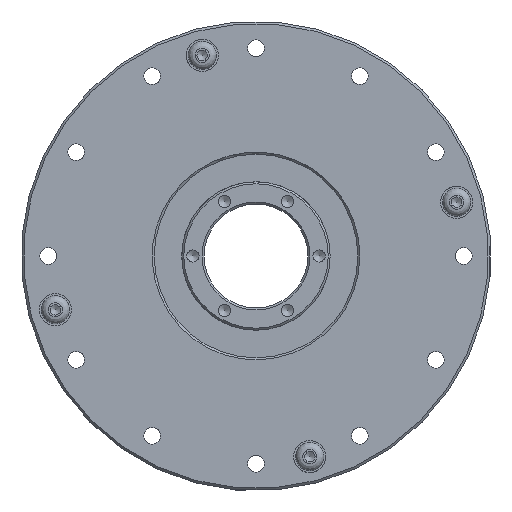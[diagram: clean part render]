
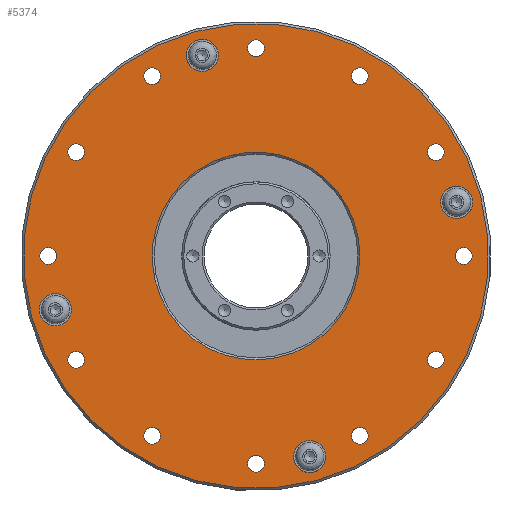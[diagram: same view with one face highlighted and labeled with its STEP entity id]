
A CAD part, left-side view. The second image highlights one B-rep face of the part: STEP entity #5374.
In plain terms, the highlighted planar face has unit normal (-1, 0, 0).
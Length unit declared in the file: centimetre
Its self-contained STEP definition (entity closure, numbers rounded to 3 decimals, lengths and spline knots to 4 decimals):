
#494=PLANE($,#6002);
#710=FACE_BOUND($,#1662,.T.);
#711=FACE_BOUND($,#1663,.T.);
#712=FACE_BOUND($,#1664,.T.);
#713=FACE_BOUND($,#1665,.T.);
#714=FACE_BOUND($,#1666,.T.);
#715=FACE_BOUND($,#1667,.T.);
#716=FACE_BOUND($,#1668,.T.);
#717=FACE_BOUND($,#1669,.T.);
#718=FACE_BOUND($,#1670,.T.);
#719=FACE_BOUND($,#1671,.T.);
#720=FACE_BOUND($,#1672,.T.);
#721=FACE_BOUND($,#1673,.T.);
#722=FACE_BOUND($,#1674,.T.);
#723=FACE_BOUND($,#1675,.T.);
#724=FACE_BOUND($,#1676,.T.);
#725=FACE_BOUND($,#1677,.T.);
#726=FACE_BOUND($,#1678,.T.);
#727=FACE_BOUND($,#1679,.T.);
#1662=EDGE_LOOP($,(#4098));
#1663=EDGE_LOOP($,(#4099));
#1664=EDGE_LOOP($,(#4100));
#1665=EDGE_LOOP($,(#4101));
#1666=EDGE_LOOP($,(#4102));
#1667=EDGE_LOOP($,(#4103));
#1668=EDGE_LOOP($,(#4104));
#1669=EDGE_LOOP($,(#4105));
#1670=EDGE_LOOP($,(#4106));
#1671=EDGE_LOOP($,(#4107));
#1672=EDGE_LOOP($,(#4108));
#1673=EDGE_LOOP($,(#4109));
#1674=EDGE_LOOP($,(#4110));
#1675=EDGE_LOOP($,(#4111));
#1676=EDGE_LOOP($,(#4112));
#1677=EDGE_LOOP($,(#4113));
#1678=EDGE_LOOP($,(#4114));
#1679=EDGE_LOOP($,(#4115));
#2363=CIRCLE($,#5960,0.17);
#2364=CIRCLE($,#5962,0.17);
#2365=CIRCLE($,#5964,0.17);
#2366=CIRCLE($,#5966,0.17);
#2367=CIRCLE($,#5968,0.17);
#2368=CIRCLE($,#5970,0.17);
#2369=CIRCLE($,#5972,0.17);
#2370=CIRCLE($,#5974,0.17);
#2371=CIRCLE($,#5976,0.17);
#2372=CIRCLE($,#5978,0.17);
#2373=CIRCLE($,#5980,0.17);
#2374=CIRCLE($,#5982,0.17);
#2375=CIRCLE($,#5984,0.325);
#2376=CIRCLE($,#5986,0.325);
#2377=CIRCLE($,#5988,0.325);
#2378=CIRCLE($,#5990,0.325);
#2384=CIRCLE($,#6001,4.7);
#2385=CIRCLE($,#6003,2.1);
#2809=VERTEX_POINT($,#9038);
#2810=VERTEX_POINT($,#9041);
#2811=VERTEX_POINT($,#9044);
#2812=VERTEX_POINT($,#9047);
#2813=VERTEX_POINT($,#9050);
#2814=VERTEX_POINT($,#9053);
#2815=VERTEX_POINT($,#9056);
#2816=VERTEX_POINT($,#9059);
#2817=VERTEX_POINT($,#9062);
#2818=VERTEX_POINT($,#9065);
#2819=VERTEX_POINT($,#9068);
#2820=VERTEX_POINT($,#9071);
#2821=VERTEX_POINT($,#9074);
#2822=VERTEX_POINT($,#9077);
#2823=VERTEX_POINT($,#9080);
#2824=VERTEX_POINT($,#9083);
#2830=VERTEX_POINT($,#9100);
#2831=VERTEX_POINT($,#9103);
#3345=EDGE_CURVE($,#2809,#2809,#2363,.T.);
#3346=EDGE_CURVE($,#2810,#2810,#2364,.T.);
#3347=EDGE_CURVE($,#2811,#2811,#2365,.T.);
#3348=EDGE_CURVE($,#2812,#2812,#2366,.T.);
#3349=EDGE_CURVE($,#2813,#2813,#2367,.T.);
#3350=EDGE_CURVE($,#2814,#2814,#2368,.T.);
#3351=EDGE_CURVE($,#2815,#2815,#2369,.T.);
#3352=EDGE_CURVE($,#2816,#2816,#2370,.T.);
#3353=EDGE_CURVE($,#2817,#2817,#2371,.T.);
#3354=EDGE_CURVE($,#2818,#2818,#2372,.T.);
#3355=EDGE_CURVE($,#2819,#2819,#2373,.T.);
#3356=EDGE_CURVE($,#2820,#2820,#2374,.T.);
#3357=EDGE_CURVE($,#2821,#2821,#2375,.T.);
#3358=EDGE_CURVE($,#2822,#2822,#2376,.T.);
#3359=EDGE_CURVE($,#2823,#2823,#2377,.T.);
#3360=EDGE_CURVE($,#2824,#2824,#2378,.T.);
#3366=EDGE_CURVE($,#2830,#2830,#2384,.T.);
#3367=EDGE_CURVE($,#2831,#2831,#2385,.T.);
#4098=ORIENTED_EDGE($,*,*,#3345,.T.);
#4099=ORIENTED_EDGE($,*,*,#3346,.T.);
#4100=ORIENTED_EDGE($,*,*,#3347,.T.);
#4101=ORIENTED_EDGE($,*,*,#3348,.T.);
#4102=ORIENTED_EDGE($,*,*,#3349,.T.);
#4103=ORIENTED_EDGE($,*,*,#3350,.T.);
#4104=ORIENTED_EDGE($,*,*,#3351,.T.);
#4105=ORIENTED_EDGE($,*,*,#3352,.T.);
#4106=ORIENTED_EDGE($,*,*,#3353,.T.);
#4107=ORIENTED_EDGE($,*,*,#3354,.T.);
#4108=ORIENTED_EDGE($,*,*,#3355,.T.);
#4109=ORIENTED_EDGE($,*,*,#3356,.T.);
#4110=ORIENTED_EDGE($,*,*,#3357,.T.);
#4111=ORIENTED_EDGE($,*,*,#3358,.T.);
#4112=ORIENTED_EDGE($,*,*,#3359,.T.);
#4113=ORIENTED_EDGE($,*,*,#3360,.T.);
#4114=ORIENTED_EDGE($,*,*,#3367,.F.);
#4115=ORIENTED_EDGE($,*,*,#3366,.F.);
#5374=ADVANCED_FACE($,(#710,#711,#712,#713,#714,#715,#716,#717,#718,#719,
#720,#721,#722,#723,#724,#725,#726,#727),#494,.T.);
#5960=AXIS2_PLACEMENT_3D($,#9039,#7133,#7134);
#5962=AXIS2_PLACEMENT_3D($,#9042,#7137,#7138);
#5964=AXIS2_PLACEMENT_3D($,#9045,#7141,#7142);
#5966=AXIS2_PLACEMENT_3D($,#9048,#7145,#7146);
#5968=AXIS2_PLACEMENT_3D($,#9051,#7149,#7150);
#5970=AXIS2_PLACEMENT_3D($,#9054,#7153,#7154);
#5972=AXIS2_PLACEMENT_3D($,#9057,#7157,#7158);
#5974=AXIS2_PLACEMENT_3D($,#9060,#7161,#7162);
#5976=AXIS2_PLACEMENT_3D($,#9063,#7165,#7166);
#5978=AXIS2_PLACEMENT_3D($,#9066,#7169,#7170);
#5980=AXIS2_PLACEMENT_3D($,#9069,#7173,#7174);
#5982=AXIS2_PLACEMENT_3D($,#9072,#7177,#7178);
#5984=AXIS2_PLACEMENT_3D($,#9075,#7181,#7182);
#5986=AXIS2_PLACEMENT_3D($,#9078,#7185,#7186);
#5988=AXIS2_PLACEMENT_3D($,#9081,#7189,#7190);
#5990=AXIS2_PLACEMENT_3D($,#9084,#7193,#7194);
#6001=AXIS2_PLACEMENT_3D($,#9101,#7215,#7216);
#6002=AXIS2_PLACEMENT_3D($,#9102,#7217,#7218);
#6003=AXIS2_PLACEMENT_3D($,#9104,#7219,#7220);
#7133=DIRECTION('center_axis',(1.,0.,0.));
#7134=DIRECTION('ref_axis',(0.,-0.966,0.259));
#7137=DIRECTION('center_axis',(1.,0.,0.));
#7138=DIRECTION('ref_axis',(0.,-0.966,0.259));
#7141=DIRECTION('center_axis',(1.,0.,0.));
#7142=DIRECTION('ref_axis',(0.,-0.966,0.259));
#7145=DIRECTION('center_axis',(1.,0.,0.));
#7146=DIRECTION('ref_axis',(0.,-0.966,0.259));
#7149=DIRECTION('center_axis',(1.,0.,0.));
#7150=DIRECTION('ref_axis',(0.,-0.966,0.259));
#7153=DIRECTION('center_axis',(1.,0.,0.));
#7154=DIRECTION('ref_axis',(0.,-0.966,0.259));
#7157=DIRECTION('center_axis',(1.,0.,0.));
#7158=DIRECTION('ref_axis',(0.,-0.966,0.259));
#7161=DIRECTION('center_axis',(1.,0.,0.));
#7162=DIRECTION('ref_axis',(0.,-0.966,0.259));
#7165=DIRECTION('center_axis',(1.,0.,0.));
#7166=DIRECTION('ref_axis',(0.,-0.966,0.259));
#7169=DIRECTION('center_axis',(1.,0.,0.));
#7170=DIRECTION('ref_axis',(0.,-0.966,0.259));
#7173=DIRECTION('center_axis',(1.,0.,0.));
#7174=DIRECTION('ref_axis',(0.,-0.966,0.259));
#7177=DIRECTION('center_axis',(1.,0.,0.));
#7178=DIRECTION('ref_axis',(0.,-0.966,0.259));
#7181=DIRECTION('center_axis',(1.,0.,0.));
#7182=DIRECTION('ref_axis',(0.,-0.966,0.259));
#7185=DIRECTION('center_axis',(1.,0.,0.));
#7186=DIRECTION('ref_axis',(0.,-0.966,0.259));
#7189=DIRECTION('center_axis',(1.,0.,0.));
#7190=DIRECTION('ref_axis',(0.,-0.966,0.259));
#7193=DIRECTION('center_axis',(1.,0.,0.));
#7194=DIRECTION('ref_axis',(0.,-0.966,0.259));
#7215=DIRECTION('center_axis',(1.,0.,0.));
#7216=DIRECTION('ref_axis',(0.,-0.259,-0.966));
#7217=DIRECTION('center_axis',(-1.,0.,0.));
#7218=DIRECTION('ref_axis',(0.,-0.966,0.259));
#7219=DIRECTION('center_axis',(-1.,0.,0.));
#7220=DIRECTION('ref_axis',(0.,-0.259,-0.966));
#9038=CARTESIAN_POINT('',(-0.75,-3.8015,-2.056));
#9039=CARTESIAN_POINT('Origin',(-0.75,-3.6373,-2.1));
#9041=CARTESIAN_POINT('',(-0.75,-0.1642,-4.156));
#9042=CARTESIAN_POINT('Origin',(-0.75,0.,
-4.2));
#9044=CARTESIAN_POINT('',(-0.75,3.4731,-2.056));
#9045=CARTESIAN_POINT('Origin',(-0.75,3.6373,-2.1));
#9047=CARTESIAN_POINT('',(-0.75,3.4731,2.144));
#9048=CARTESIAN_POINT('Origin',(-0.75,3.6373,2.1));
#9050=CARTESIAN_POINT('',(-0.75,-0.1642,4.244));
#9051=CARTESIAN_POINT('Origin',(-0.75,0.,
4.2));
#9053=CARTESIAN_POINT('',(-0.75,-3.8015,2.144));
#9054=CARTESIAN_POINT('Origin',(-0.75,-3.6373,2.1));
#9056=CARTESIAN_POINT('',(-0.75,-2.2642,3.6813));
#9057=CARTESIAN_POINT('Origin',(-0.75,-2.1,3.6373));
#9059=CARTESIAN_POINT('',(-0.75,1.9358,3.6813));
#9060=CARTESIAN_POINT('Origin',(-0.75,2.1,3.6373));
#9062=CARTESIAN_POINT('',(-0.75,4.0358,0.044));
#9063=CARTESIAN_POINT('Origin',(-0.75,4.2,0.));
#9065=CARTESIAN_POINT('',(-0.75,1.9358,-3.5933));
#9066=CARTESIAN_POINT('Origin',(-0.75,2.1,-3.6373));
#9068=CARTESIAN_POINT('',(-0.75,-2.2642,-3.5933));
#9069=CARTESIAN_POINT('Origin',(-0.75,-2.1,-3.6373));
#9071=CARTESIAN_POINT('',(-0.75,-4.3642,0.044));
#9072=CARTESIAN_POINT('Origin',(-0.75,-4.2,0.));
#9074=CARTESIAN_POINT('',(-0.75,3.743,-1.0029));
#9075=CARTESIAN_POINT('Origin',(-0.75,4.0569,-1.087));
#9077=CARTESIAN_POINT('',(-0.75,-4.3708,1.1712));
#9078=CARTESIAN_POINT('Origin',(-0.75,-4.0569,1.087));
#9080=CARTESIAN_POINT('',(-0.75,0.7731,4.141));
#9081=CARTESIAN_POINT('Origin',(-0.75,1.087,4.0569));
#9083=CARTESIAN_POINT('',(-0.75,-1.401,-3.9728));
#9084=CARTESIAN_POINT('Origin',(-0.75,-1.087,-4.0569));
#9100=CARTESIAN_POINT('',(-0.75,1.2164,4.5399));
#9101=CARTESIAN_POINT('Origin',(-0.75,0.,
0.));
#9102=CARTESIAN_POINT('Origin',(-0.75,1.2294,4.5881));
#9103=CARTESIAN_POINT('',(-0.75,0.5435,2.0284));
#9104=CARTESIAN_POINT('Origin',(-0.75,0.,
0.));
